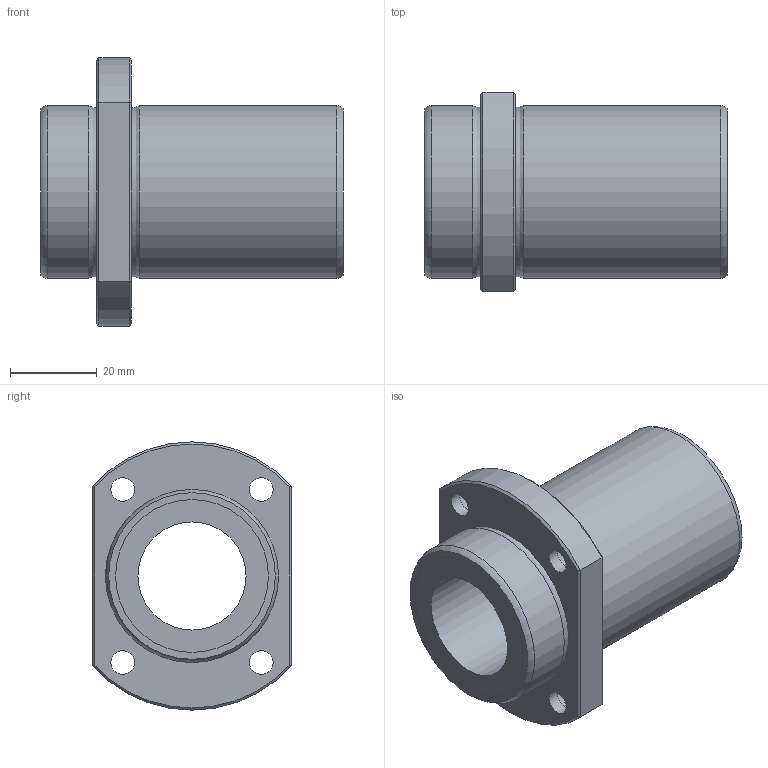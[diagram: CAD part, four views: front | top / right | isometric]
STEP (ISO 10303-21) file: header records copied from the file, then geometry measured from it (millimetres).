
FILE_DESCRIPTION((''),'2;1');
FILE_NAME('C:\Documents and Settings\土屋\My Documents\土屋移動用フォルダ\製品 (図面)\カタログ用3D\変換ファイル\OZAK_3D-CAD(STEP形式)\Part1.-Linear Bearings_ﾘﾆｱﾍﾞｱﾘﾝｸﾞ\09_Maintenance Free_ﾒｲﾝﾃﾅﾝｽﾌﾘｰ\L2017-09-21T13:50:28','2017-09-21T13:50:28',('y'),(''),'Autodesk Inventor 11','Autodesk Inventor 11','');
FILE_SCHEMA(('AUTOMOTIVE_DESIGN { 1 0 10303 214 1 1 1 1 }'));
Length unit declared in the file: millimetre
Products named in the file (1): LFTB-MF
Bounding box: 70 x 46 x 62 mm (x, y, z)
Volume: 62014.3 mm3; surface area: 19406.5 mm2
Topology: 1 solids, 1 shells, 39 faces, 75 edges, 46 vertices
Faces by surface type: bspline 14, plane 12, cylinder 7, cone 4, torus 2
Full cylindrical faces by diameter (mm): 25 x1, 35.3 x2, 40 x2
Entity records: 1177 total; most frequent: CARTESIAN_POINT 440, DIRECTION 140, ORIENTED_EDGE 116, EDGE_LOOP 74, AXIS2_PLACEMENT_3D 64, EDGE_CURVE 58, VERTEX_POINT 46, FACE_OUTER_BOUND 39
